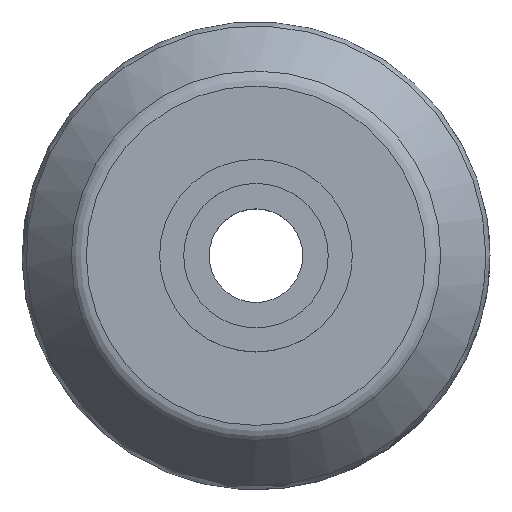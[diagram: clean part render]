
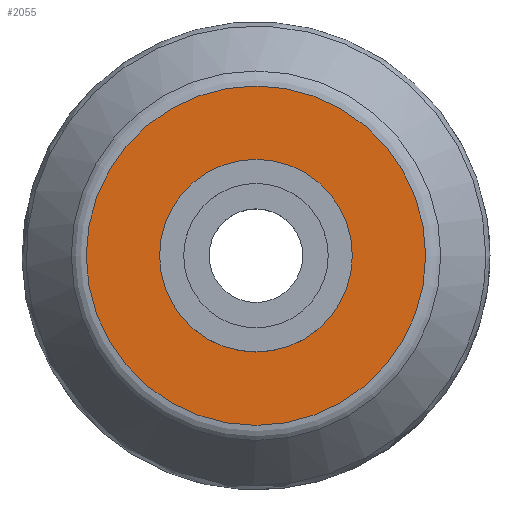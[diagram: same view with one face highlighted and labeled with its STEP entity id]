
A CAD part, top view. The second image highlights one B-rep face of the part: STEP entity #2055.
In plain terms, the highlighted planar face has unit normal (0, 0, 1).
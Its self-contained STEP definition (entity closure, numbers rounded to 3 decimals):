
#1884 = TOROIDAL_SURFACE('',#1885,12.327,1.4);
#1885 = AXIS2_PLACEMENT_3D('',#1886,#1887,#1888);
#1886 = CARTESIAN_POINT('',(17.,17.,16.6));
#1887 = DIRECTION('',(0.,0.,1.));
#1888 = DIRECTION('',(1.,0.,0.));
#1969 = VERTEX_POINT('',#1970);
#1970 = CARTESIAN_POINT('',(29.327,17.,18.));
#1994 = EDGE_CURVE('',#1969,#1969,#1995,.T.);
#1995 = SURFACE_CURVE('',#1996,(#2001,#2008),.PCURVE_S1.);
#1996 = CIRCLE('',#1997,12.327);
#1997 = AXIS2_PLACEMENT_3D('',#1998,#1999,#2000);
#1998 = CARTESIAN_POINT('',(17.,17.,18.));
#1999 = DIRECTION('',(0.,0.,1.));
#2000 = DIRECTION('',(1.,0.,0.));
#2001 = PCURVE('',#1884,#2002);
#2002 = DEFINITIONAL_REPRESENTATION('',(#2003),#2007);
#2003 = LINE('',#2004,#2005);
#2004 = CARTESIAN_POINT('',(0.,1.571));
#2005 = VECTOR('',#2006,1.);
#2006 = DIRECTION('',(1.,0.));
#2007 = ( GEOMETRIC_REPRESENTATION_CONTEXT(2) 
PARAMETRIC_REPRESENTATION_CONTEXT() REPRESENTATION_CONTEXT('2D SPACE',''
  ) );
#2008 = PCURVE('',#2009,#2014);
#2009 = PLANE('',#2010);
#2010 = AXIS2_PLACEMENT_3D('',#2011,#2012,#2013);
#2011 = CARTESIAN_POINT('',(17.,17.,18.));
#2012 = DIRECTION('',(0.,0.,1.));
#2013 = DIRECTION('',(1.,0.,-0.));
#2014 = DEFINITIONAL_REPRESENTATION('',(#2015),#2019);
#2015 = CIRCLE('',#2016,12.327);
#2016 = AXIS2_PLACEMENT_2D('',#2017,#2018);
#2017 = CARTESIAN_POINT('',(0.,0.));
#2018 = DIRECTION('',(1.,0.));
#2019 = ( GEOMETRIC_REPRESENTATION_CONTEXT(2) 
PARAMETRIC_REPRESENTATION_CONTEXT() REPRESENTATION_CONTEXT('2D SPACE',''
  ) );
#2055 = ADVANCED_FACE('',(#2056,#2059),#2009,.T.);
#2056 = FACE_BOUND('',#2057,.T.);
#2057 = EDGE_LOOP('',(#2058));
#2058 = ORIENTED_EDGE('',*,*,#1994,.T.);
#2059 = FACE_BOUND('',#2060,.T.);
#2060 = EDGE_LOOP('',(#2061));
#2061 = ORIENTED_EDGE('',*,*,#2062,.F.);
#2062 = EDGE_CURVE('',#2063,#2063,#2065,.T.);
#2063 = VERTEX_POINT('',#2064);
#2064 = CARTESIAN_POINT('',(24.,17.,18.));
#2065 = SURFACE_CURVE('',#2066,(#2071,#2078),.PCURVE_S1.);
#2066 = CIRCLE('',#2067,7.);
#2067 = AXIS2_PLACEMENT_3D('',#2068,#2069,#2070);
#2068 = CARTESIAN_POINT('',(17.,17.,18.));
#2069 = DIRECTION('',(0.,0.,1.));
#2070 = DIRECTION('',(1.,0.,-0.));
#2071 = PCURVE('',#2009,#2072);
#2072 = DEFINITIONAL_REPRESENTATION('',(#2073),#2077);
#2073 = CIRCLE('',#2074,7.);
#2074 = AXIS2_PLACEMENT_2D('',#2075,#2076);
#2075 = CARTESIAN_POINT('',(0.,0.));
#2076 = DIRECTION('',(1.,0.));
#2077 = ( GEOMETRIC_REPRESENTATION_CONTEXT(2) 
PARAMETRIC_REPRESENTATION_CONTEXT() REPRESENTATION_CONTEXT('2D SPACE',''
  ) );
#2078 = PCURVE('',#2079,#2084);
#2079 = CYLINDRICAL_SURFACE('',#2080,7.);
#2080 = AXIS2_PLACEMENT_3D('',#2081,#2082,#2083);
#2081 = CARTESIAN_POINT('',(17.,17.,18.));
#2082 = DIRECTION('',(0.,0.,1.));
#2083 = DIRECTION('',(1.,0.,-0.));
#2084 = DEFINITIONAL_REPRESENTATION('',(#2085),#2089);
#2085 = LINE('',#2086,#2087);
#2086 = CARTESIAN_POINT('',(0.,0.));
#2087 = VECTOR('',#2088,1.);
#2088 = DIRECTION('',(1.,0.));
#2089 = ( GEOMETRIC_REPRESENTATION_CONTEXT(2) 
PARAMETRIC_REPRESENTATION_CONTEXT() REPRESENTATION_CONTEXT('2D SPACE',''
  ) );
